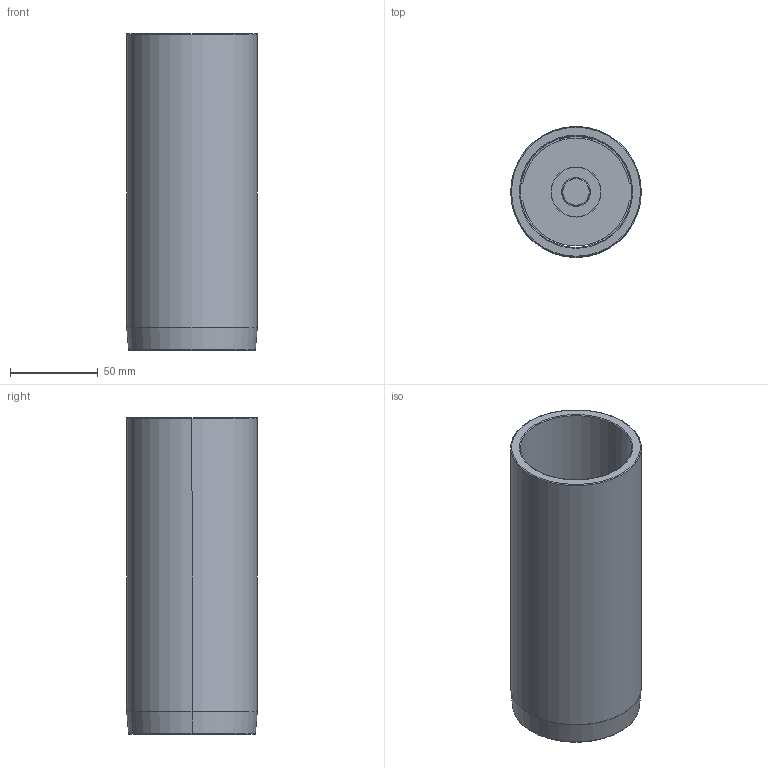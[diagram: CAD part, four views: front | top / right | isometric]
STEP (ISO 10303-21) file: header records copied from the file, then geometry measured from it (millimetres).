
FILE_DESCRIPTION((''),'2;1');
FILE_NAME('C12_063_180.stp','2009-01-29T09:34:40',(''),(''),'Mechanical Desktop 2009','Mechanical Desktop 2009',', , ');
FILE_SCHEMA(('CONFIG_CONTROL_DESIGN'));
Length unit declared in the file: millimetre
Products named in the file (2): Product; blmdl1
Assembly tree (1 placements, depth 2):
  Product
    blmdl1
Bounding box: 74.25 x 74.25 x 180 mm (x, y, z)
Volume: 225511.5 mm3; surface area: 94310.6 mm2
Topology: 5 solids, 5 shells, 79 faces, 200 edges, 134 vertices
Faces by surface type: cylinder 34, plane 29, torus 10, cone 6
Entity records: 2585 total; most frequent: DIRECTION 480, CARTESIAN_POINT 435, ORIENTED_EDGE 400, AXIS2_PLACEMENT_3D 203, EDGE_CURVE 200, VERTEX_POINT 134, CIRCLE 122, EDGE_LOOP 92
